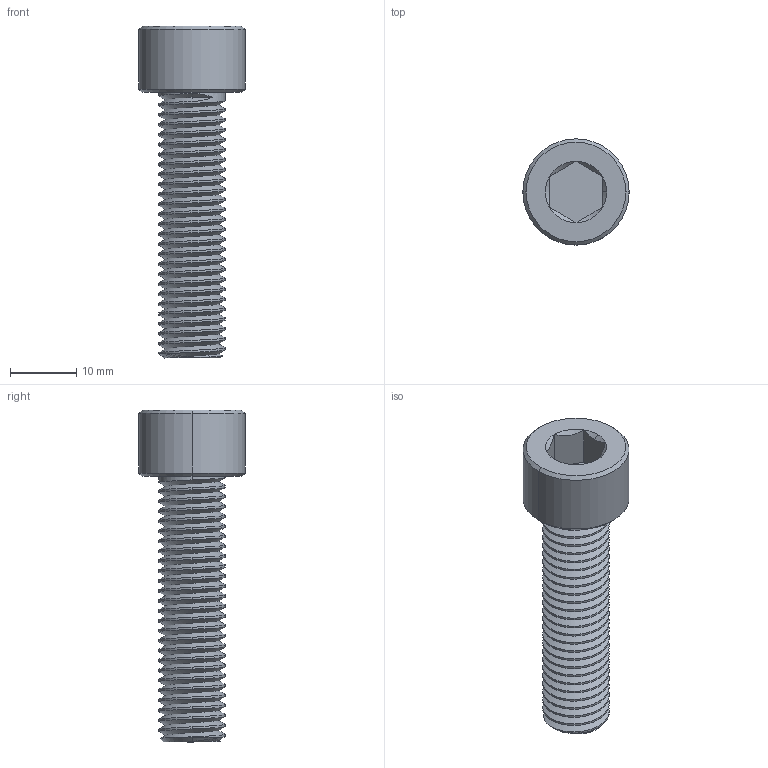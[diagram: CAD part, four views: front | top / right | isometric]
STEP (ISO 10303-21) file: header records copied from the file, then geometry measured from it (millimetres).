
FILE_DESCRIPTION (( 'STEP AP214' ), '1' );
FILE_NAME ('3-897-10040.STEP', '2020-05-21T14:09:29', ( '' ), ( '' ), 'SwSTEP 2.0', 'SolidWorks 2020', '' );
FILE_SCHEMA (( 'AUTOMOTIVE_DESIGN' ));
Length unit declared in the file: millimetre
Products named in the file (1): 3-897-10040
Bounding box: 16 x 16 x 50 mm (x, y, z)
Volume: 4323.6 mm3; surface area: 3044.7 mm2
Topology: 1 solids, 1 shells, 83 faces, 219 edges, 140 vertices
Faces by surface type: cylinder 55, cone 14, plane 12, bspline 2
Entity records: 5296 total; most frequent: CARTESIAN_POINT 3557, ORIENTED_EDGE 438, DIRECTION 281, EDGE_CURVE 219, VERTEX_POINT 140, AXIS2_PLACEMENT_3D 103, EDGE_LOOP 85, ADVANCED_FACE 83
